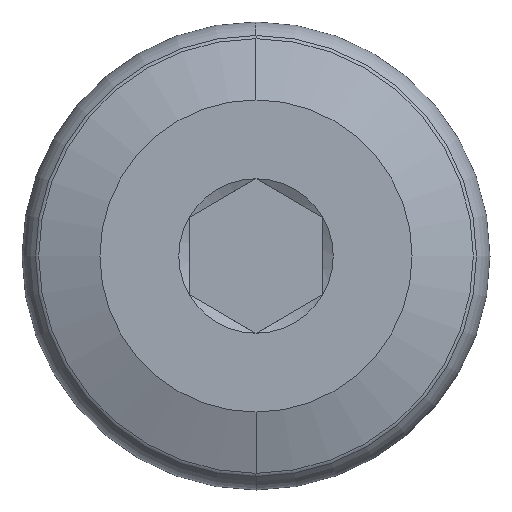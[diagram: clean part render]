
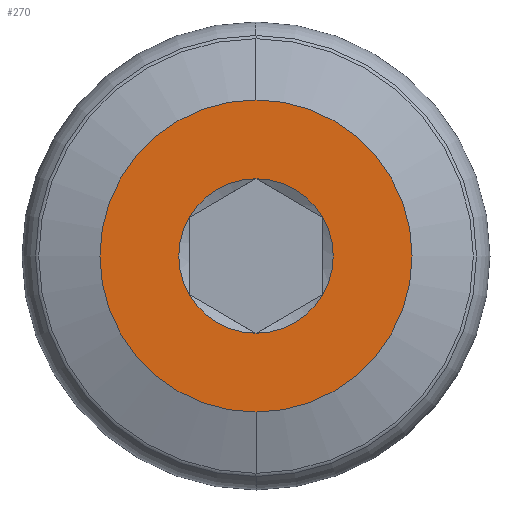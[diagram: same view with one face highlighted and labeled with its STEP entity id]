
A CAD part, left-side view. The second image highlights one B-rep face of the part: STEP entity #270.
In plain terms, the highlighted planar face has unit normal (-1, 0, 0).
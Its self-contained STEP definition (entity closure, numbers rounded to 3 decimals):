
#2 = CIRCLE ( 'NONE', #399, 1.732 ) ;
#10 = DIRECTION ( 'NONE',  ( 1., 0., 0. ) ) ;
#20 = CARTESIAN_POINT ( 'NONE',  ( 0., 0., 0. ) ) ;
#24 = ORIENTED_EDGE ( 'NONE', *, *, #156, .T. ) ;
#27 = AXIS2_PLACEMENT_3D ( 'NONE', #512, #770, #833 ) ;
#40 = DIRECTION ( 'NONE',  ( 0., 0., -1. ) ) ;
#65 = EDGE_CURVE ( 'NONE', #90, #373, #532, .T. ) ;
#73 = AXIS2_PLACEMENT_3D ( 'NONE', #110, #561, #40 ) ;
#75 = EDGE_LOOP ( 'NONE', ( #801, #499, #24, #539, #104, #148 ) ) ;
#80 = DIRECTION ( 'NONE',  ( 0., 0., -1. ) ) ;
#85 = CIRCLE ( 'NONE', #749, 3.5 ) ;
#90 = VERTEX_POINT ( 'NONE', #360 ) ;
#93 = CARTESIAN_POINT ( 'NONE',  ( 0., -1.5, -0.866 ) ) ;
#100 = VERTEX_POINT ( 'NONE', #688 ) ;
#104 = ORIENTED_EDGE ( 'NONE', *, *, #730, .T. ) ;
#110 = CARTESIAN_POINT ( 'NONE',  ( 0., 0., 0. ) ) ;
#145 = AXIS2_PLACEMENT_3D ( 'NONE', #20, #653, #287 ) ;
#148 = ORIENTED_EDGE ( 'NONE', *, *, #364, .T. ) ;
#156 = EDGE_CURVE ( 'NONE', #213, #407, #278, .T. ) ;
#159 = ORIENTED_EDGE ( 'NONE', *, *, #462, .F. ) ;
#166 = DIRECTION ( 'NONE',  ( 1., 0., 0. ) ) ;
#190 = CARTESIAN_POINT ( 'NONE',  ( 0., -1.5, 0.866 ) ) ;
#208 = VERTEX_POINT ( 'NONE', #641 ) ;
#213 = VERTEX_POINT ( 'NONE', #190 ) ;
#215 = CARTESIAN_POINT ( 'NONE',  ( 0., 0., 0. ) ) ;
#226 = DIRECTION ( 'NONE',  ( 1., 0., 0. ) ) ;
#228 = CARTESIAN_POINT ( 'NONE',  ( 0., 0., 0. ) ) ;
#252 = FACE_BOUND ( 'NONE', #75, .T. ) ;
#255 = CIRCLE ( 'NONE', #722, 1.732 ) ;
#270 = ADVANCED_FACE ( 'NONE', ( #252, #518 ), #583, .T. ) ;
#278 = CIRCLE ( 'NONE', #27, 1.732 ) ;
#285 = CIRCLE ( 'NONE', #459, 1.732 ) ;
#287 = DIRECTION ( 'NONE',  ( 0., 0., -1. ) ) ;
#295 = DIRECTION ( 'NONE',  ( 0., 0., -1. ) ) ;
#296 = CARTESIAN_POINT ( 'NONE',  ( 0., 0., 0. ) ) ;
#360 = CARTESIAN_POINT ( 'NONE',  ( 0., 1.5, 0.866 ) ) ;
#364 = EDGE_CURVE ( 'NONE', #410, #90, #784, .T. ) ;
#373 = VERTEX_POINT ( 'NONE', #405 ) ;
#378 = DIRECTION ( 'NONE',  ( 0., 0., -1. ) ) ;
#385 = CIRCLE ( 'NONE', #73, 3.5 ) ;
#399 = AXIS2_PLACEMENT_3D ( 'NONE', #447, #630, #378 ) ;
#405 = CARTESIAN_POINT ( 'NONE',  ( 0., 0., 1.732 ) ) ;
#407 = VERTEX_POINT ( 'NONE', #93 ) ;
#410 = VERTEX_POINT ( 'NONE', #589 ) ;
#440 = AXIS2_PLACEMENT_3D ( 'NONE', #647, #713, #837 ) ;
#447 = CARTESIAN_POINT ( 'NONE',  ( 0., 0., 0. ) ) ;
#459 = AXIS2_PLACEMENT_3D ( 'NONE', #597, #536, #477 ) ;
#462 = EDGE_CURVE ( 'NONE', #725, #100, #85, .T. ) ;
#477 = DIRECTION ( 'NONE',  ( 0., 0., -1. ) ) ;
#499 = ORIENTED_EDGE ( 'NONE', *, *, #740, .T. ) ;
#512 = CARTESIAN_POINT ( 'NONE',  ( 0., 0., 0. ) ) ;
#518 = FACE_OUTER_BOUND ( 'NONE', #744, .T. ) ;
#532 = CIRCLE ( 'NONE', #643, 1.732 ) ;
#536 = DIRECTION ( 'NONE',  ( 1., 0., 0. ) ) ;
#539 = ORIENTED_EDGE ( 'NONE', *, *, #681, .T. ) ;
#542 = EDGE_CURVE ( 'NONE', #100, #725, #385, .T. ) ;
#561 = DIRECTION ( 'NONE',  ( 1., 0., 0. ) ) ;
#583 = PLANE ( 'NONE',  #440 ) ;
#589 = CARTESIAN_POINT ( 'NONE',  ( 0., 1.5, -0.866 ) ) ;
#597 = CARTESIAN_POINT ( 'NONE',  ( 0., 0., 0. ) ) ;
#630 = DIRECTION ( 'NONE',  ( 1., 0., 0. ) ) ;
#641 = CARTESIAN_POINT ( 'NONE',  ( 0., 0., -1.732 ) ) ;
#643 = AXIS2_PLACEMENT_3D ( 'NONE', #296, #166, #813 ) ;
#647 = CARTESIAN_POINT ( 'NONE',  ( 0., 3.5, 0. ) ) ;
#653 = DIRECTION ( 'NONE',  ( 1., 0., 0. ) ) ;
#681 = EDGE_CURVE ( 'NONE', #407, #208, #2, .T. ) ;
#688 = CARTESIAN_POINT ( 'NONE',  ( 0., 0., 3.5 ) ) ;
#713 = DIRECTION ( 'NONE',  ( -1., 0., 0. ) ) ;
#721 = ORIENTED_EDGE ( 'NONE', *, *, #542, .F. ) ;
#722 = AXIS2_PLACEMENT_3D ( 'NONE', #215, #10, #80 ) ;
#725 = VERTEX_POINT ( 'NONE', #768 ) ;
#730 = EDGE_CURVE ( 'NONE', #208, #410, #255, .T. ) ;
#740 = EDGE_CURVE ( 'NONE', #373, #213, #285, .T. ) ;
#744 = EDGE_LOOP ( 'NONE', ( #159, #721 ) ) ;
#749 = AXIS2_PLACEMENT_3D ( 'NONE', #228, #226, #295 ) ;
#768 = CARTESIAN_POINT ( 'NONE',  ( 0., 0., -3.5 ) ) ;
#770 = DIRECTION ( 'NONE',  ( 1., 0., 0. ) ) ;
#784 = CIRCLE ( 'NONE', #145, 1.732 ) ;
#801 = ORIENTED_EDGE ( 'NONE', *, *, #65, .T. ) ;
#813 = DIRECTION ( 'NONE',  ( 0., 0., -1. ) ) ;
#833 = DIRECTION ( 'NONE',  ( 0., 0., -1. ) ) ;
#837 = DIRECTION ( 'NONE',  ( 0., 0., 1. ) ) ;
